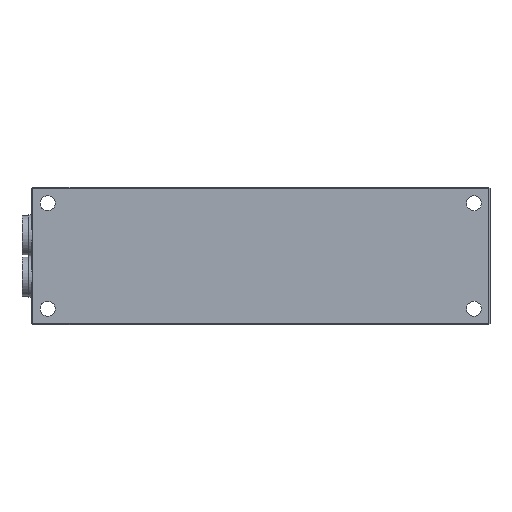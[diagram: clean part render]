
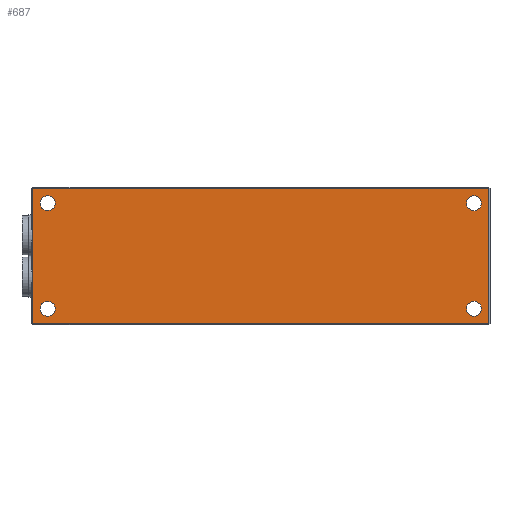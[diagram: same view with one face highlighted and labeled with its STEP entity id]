
A CAD part, front view. The second image highlights one B-rep face of the part: STEP entity #687.
In plain terms, the highlighted planar face has unit normal (0, -1, 0).
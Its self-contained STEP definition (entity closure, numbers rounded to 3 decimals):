
#74 = VERTEX_POINT ( 'NONE', #13117 ) ;
#487 = ORIENTED_EDGE ( 'NONE', *, *, #9049, .F. ) ;
#560 = CARTESIAN_POINT ( 'NONE',  ( -93., -19., 19.75 ) ) ;
#687 = ADVANCED_FACE ( 'NONE', ( #18973, #2594, #18077, #14168, #6647 ), #17981, .T. ) ;
#909 = ORIENTED_EDGE ( 'NONE', *, *, #14121, .T. ) ;
#1346 = VERTEX_POINT ( 'NONE', #12659 ) ;
#1475 = CIRCLE ( 'NONE', #4381, 3.25 ) ;
#1767 = AXIS2_PLACEMENT_3D ( 'NONE', #15087, #6114, #16545 ) ;
#1868 = VERTEX_POINT ( 'NONE', #15327 ) ;
#1949 = ORIENTED_EDGE ( 'NONE', *, *, #10116, .F. ) ;
#2029 = CIRCLE ( 'NONE', #19253, 3.25 ) ;
#2061 = EDGE_LOOP ( 'NONE', ( #5471, #9770 ) ) ;
#2202 = ORIENTED_EDGE ( 'NONE', *, *, #14728, .T. ) ;
#2590 = CIRCLE ( 'NONE', #2721, 3.25 ) ;
#2594 = FACE_BOUND ( 'NONE', #6364, .T. ) ;
#2613 = CARTESIAN_POINT ( 'NONE',  ( 93., -19., 23. ) ) ;
#2721 = AXIS2_PLACEMENT_3D ( 'NONE', #16617, #7716, #18111 ) ;
#2921 = ORIENTED_EDGE ( 'NONE', *, *, #16693, .F. ) ;
#3039 = DIRECTION ( 'NONE',  ( 0., -1., 0. ) ) ;
#3360 = LINE ( 'NONE', #13956, #18328 ) ;
#4163 = DIRECTION ( 'NONE',  ( 0., 0., -1. ) ) ;
#4294 = CARTESIAN_POINT ( 'NONE',  ( -93., -19., 23. ) ) ;
#4381 = AXIS2_PLACEMENT_3D ( 'NONE', #4294, #14789, #5804 ) ;
#4392 = AXIS2_PLACEMENT_3D ( 'NONE', #12129, #3039, #13628 ) ;
#4880 = CARTESIAN_POINT ( 'NONE',  ( 93., -19., -23. ) ) ;
#5132 = EDGE_LOOP ( 'NONE', ( #2921, #7315 ) ) ;
#5391 = CIRCLE ( 'NONE', #18815, 3.25 ) ;
#5400 = AXIS2_PLACEMENT_3D ( 'NONE', #15967, #7017, #17461 ) ;
#5471 = ORIENTED_EDGE ( 'NONE', *, *, #16426, .F. ) ;
#5489 = VERTEX_POINT ( 'NONE', #17880 ) ;
#5590 = CARTESIAN_POINT ( 'NONE',  ( -93., -19., 26.25 ) ) ;
#5657 = CARTESIAN_POINT ( 'NONE',  ( -93., -19., -23. ) ) ;
#5804 = DIRECTION ( 'NONE',  ( 0., 0., -1. ) ) ;
#5902 = VERTEX_POINT ( 'NONE', #13508 ) ;
#6114 = DIRECTION ( 'NONE',  ( 0., -1., 0. ) ) ;
#6364 = EDGE_LOOP ( 'NONE', ( #8888, #9248 ) ) ;
#6436 = DIRECTION ( 'NONE',  ( 0., 0., -1. ) ) ;
#6647 = FACE_BOUND ( 'NONE', #2061, .T. ) ;
#6893 = CARTESIAN_POINT ( 'NONE',  ( 100., -19., -29.5 ) ) ;
#6979 = EDGE_LOOP ( 'NONE', ( #10391, #8649, #909, #2202 ) ) ;
#7017 = DIRECTION ( 'NONE',  ( 0., -1., 0. ) ) ;
#7123 = VERTEX_POINT ( 'NONE', #8878 ) ;
#7198 = DIRECTION ( 'NONE',  ( 0., 0., -1. ) ) ;
#7315 = ORIENTED_EDGE ( 'NONE', *, *, #11755, .F. ) ;
#7465 = CARTESIAN_POINT ( 'NONE',  ( -93., -19., -26.25 ) ) ;
#7586 = DIRECTION ( 'NONE',  ( 0., -1., 0. ) ) ;
#7605 = LINE ( 'NONE', #17148, #15559 ) ;
#7716 = DIRECTION ( 'NONE',  ( 0., -1., 0. ) ) ;
#8028 = LINE ( 'NONE', #9169, #12025 ) ;
#8649 = ORIENTED_EDGE ( 'NONE', *, *, #16082, .T. ) ;
#8878 = CARTESIAN_POINT ( 'NONE',  ( 93., -19., -19.75 ) ) ;
#8888 = ORIENTED_EDGE ( 'NONE', *, *, #14428, .F. ) ;
#9001 = VECTOR ( 'NONE', #17333, 1000. ) ;
#9049 = EDGE_CURVE ( 'NONE', #10843, #13089, #1475, .T. ) ;
#9085 = CARTESIAN_POINT ( 'NONE',  ( 93., -19., 26.25 ) ) ;
#9169 = CARTESIAN_POINT ( 'NONE',  ( 99.5, -19., -30. ) ) ;
#9248 = ORIENTED_EDGE ( 'NONE', *, *, #15366, .F. ) ;
#9512 = DIRECTION ( 'NONE',  ( 0., 0., -1. ) ) ;
#9618 = AXIS2_PLACEMENT_3D ( 'NONE', #5657, #16134, #7198 ) ;
#9770 = ORIENTED_EDGE ( 'NONE', *, *, #10361, .F. ) ;
#10116 = EDGE_CURVE ( 'NONE', #13089, #10843, #2590, .T. ) ;
#10172 = CIRCLE ( 'NONE', #5400, 3.25 ) ;
#10361 = EDGE_CURVE ( 'NONE', #74, #7123, #10172, .T. ) ;
#10372 = AXIS2_PLACEMENT_3D ( 'NONE', #4880, #15413, #6436 ) ;
#10391 = ORIENTED_EDGE ( 'NONE', *, *, #15831, .T. ) ;
#10444 = CIRCLE ( 'NONE', #4392, 3.25 ) ;
#10843 = VERTEX_POINT ( 'NONE', #5590 ) ;
#11755 = EDGE_CURVE ( 'NONE', #1868, #17904, #2029, .T. ) ;
#12025 = VECTOR ( 'NONE', #14901, 1000. ) ;
#12129 = CARTESIAN_POINT ( 'NONE',  ( -93., -19., -23. ) ) ;
#12593 = VERTEX_POINT ( 'NONE', #12733 ) ;
#12659 = CARTESIAN_POINT ( 'NONE',  ( -99.5, -19., 29.5 ) ) ;
#12682 = CARTESIAN_POINT ( 'NONE',  ( 99.5, -19., 29.5 ) ) ;
#12733 = CARTESIAN_POINT ( 'NONE',  ( 99.5, -19., -29.5 ) ) ;
#13089 = VERTEX_POINT ( 'NONE', #560 ) ;
#13117 = CARTESIAN_POINT ( 'NONE',  ( 93., -19., -26.25 ) ) ;
#13188 = DIRECTION ( 'NONE',  ( 0., -1., 0. ) ) ;
#13508 = CARTESIAN_POINT ( 'NONE',  ( -93., -19., -19.75 ) ) ;
#13628 = DIRECTION ( 'NONE',  ( 0., 0., -1. ) ) ;
#13956 = CARTESIAN_POINT ( 'NONE',  ( -99.5, -19., -30. ) ) ;
#13966 = VERTEX_POINT ( 'NONE', #7465 ) ;
#14121 = EDGE_CURVE ( 'NONE', #1346, #5489, #3360, .T. ) ;
#14168 = FACE_BOUND ( 'NONE', #5132, .T. ) ;
#14428 = EDGE_CURVE ( 'NONE', #5902, #13966, #10444, .T. ) ;
#14610 = VERTEX_POINT ( 'NONE', #12682 ) ;
#14728 = EDGE_CURVE ( 'NONE', #5489, #12593, #16432, .T. ) ;
#14789 = DIRECTION ( 'NONE',  ( 0., -1., 0. ) ) ;
#14901 = DIRECTION ( 'NONE',  ( 0., 0., 1. ) ) ;
#15087 = CARTESIAN_POINT ( 'NONE',  ( -100., -19., -30. ) ) ;
#15295 = CIRCLE ( 'NONE', #10372, 3.25 ) ;
#15327 = CARTESIAN_POINT ( 'NONE',  ( 93., -19., 19.75 ) ) ;
#15366 = EDGE_CURVE ( 'NONE', #13966, #5902, #15532, .T. ) ;
#15413 = DIRECTION ( 'NONE',  ( 0., -1., 0. ) ) ;
#15532 = CIRCLE ( 'NONE', #9618, 3.25 ) ;
#15559 = VECTOR ( 'NONE', #18534, 1000. ) ;
#15831 = EDGE_CURVE ( 'NONE', #12593, #14610, #8028, .T. ) ;
#15967 = CARTESIAN_POINT ( 'NONE',  ( 93., -19., -23. ) ) ;
#16026 = EDGE_LOOP ( 'NONE', ( #487, #1949 ) ) ;
#16082 = EDGE_CURVE ( 'NONE', #14610, #1346, #7605, .T. ) ;
#16134 = DIRECTION ( 'NONE',  ( 0., -1., 0. ) ) ;
#16426 = EDGE_CURVE ( 'NONE', #7123, #74, #15295, .T. ) ;
#16432 = LINE ( 'NONE', #6893, #9001 ) ;
#16498 = CARTESIAN_POINT ( 'NONE',  ( 93., -19., 23. ) ) ;
#16545 = DIRECTION ( 'NONE',  ( 0., 0., -1. ) ) ;
#16617 = CARTESIAN_POINT ( 'NONE',  ( -93., -19., 23. ) ) ;
#16693 = EDGE_CURVE ( 'NONE', #17904, #1868, #5391, .T. ) ;
#17148 = CARTESIAN_POINT ( 'NONE',  ( -100., -19., 29.5 ) ) ;
#17333 = DIRECTION ( 'NONE',  ( 1., 0., 0. ) ) ;
#17461 = DIRECTION ( 'NONE',  ( 0., 0., -1. ) ) ;
#17880 = CARTESIAN_POINT ( 'NONE',  ( -99.5, -19., -29.5 ) ) ;
#17904 = VERTEX_POINT ( 'NONE', #9085 ) ;
#17981 = PLANE ( 'NONE',  #1767 ) ;
#17991 = DIRECTION ( 'NONE',  ( 0., 0., -1. ) ) ;
#18077 = FACE_BOUND ( 'NONE', #16026, .T. ) ;
#18111 = DIRECTION ( 'NONE',  ( 0., 0., -1. ) ) ;
#18328 = VECTOR ( 'NONE', #9512, 1000. ) ;
#18534 = DIRECTION ( 'NONE',  ( -1., 0., 0. ) ) ;
#18815 = AXIS2_PLACEMENT_3D ( 'NONE', #2613, #13188, #4163 ) ;
#18973 = FACE_OUTER_BOUND ( 'NONE', #6979, .T. ) ;
#19253 = AXIS2_PLACEMENT_3D ( 'NONE', #16498, #7586, #17991 ) ;
